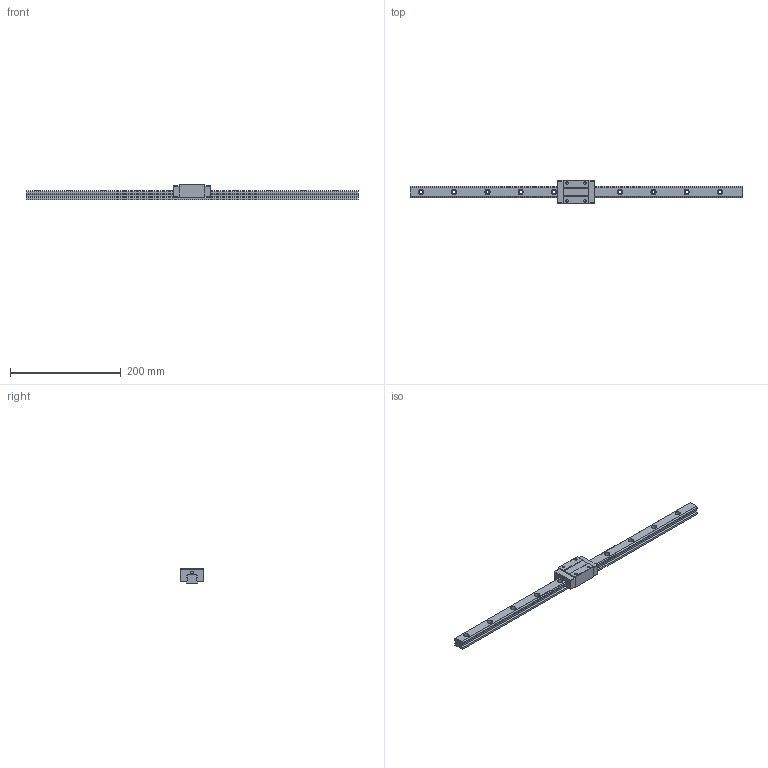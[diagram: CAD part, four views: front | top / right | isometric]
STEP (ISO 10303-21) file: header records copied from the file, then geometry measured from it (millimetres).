
FILE_DESCRIPTION(/* description */ (''),/* implementation_level */ '2;1');
FILE_NAME(/* name */ 'TRS20VN-XN.stp',/* time_stamp */ '2017-10-25T17:09:12+08:00',/* author */ (''),/* organization */ (''),/* preprocessor_version */ 'ST-DEVELOPER v11',/* originating_system */ 'SIEMENS UGS NX 6.0',/* authorisation */ '');
FILE_SCHEMA (('AUTOMOTIVE_DESIGN { 1 0 10303 214 1 1 1 1 }'));
Length unit declared in the file: millimetre
Products named in the file (1): TRS20VN-XN
Bounding box: 600 x 42 x 28 mm (x, y, z)
Volume: 217115.2 mm3; surface area: 61735 mm2
Topology: 2 solids, 2 shells, 126 faces, 312 edges, 206 vertices
Faces by surface type: plane 80, cylinder 46
Full cylindrical faces by diameter (mm): 4.3 x4, 5 x2, 6 x10, 9.5 x10
Entity records: 4094 total; most frequent: DIRECTION 622, CARTESIAN_POINT 599, ORIENTED_EDGE 552, EDGE_CURVE 276, AXIS2_PLACEMENT_3D 219, VERTEX_POINT 196, EDGE_LOOP 188, LINE 184
